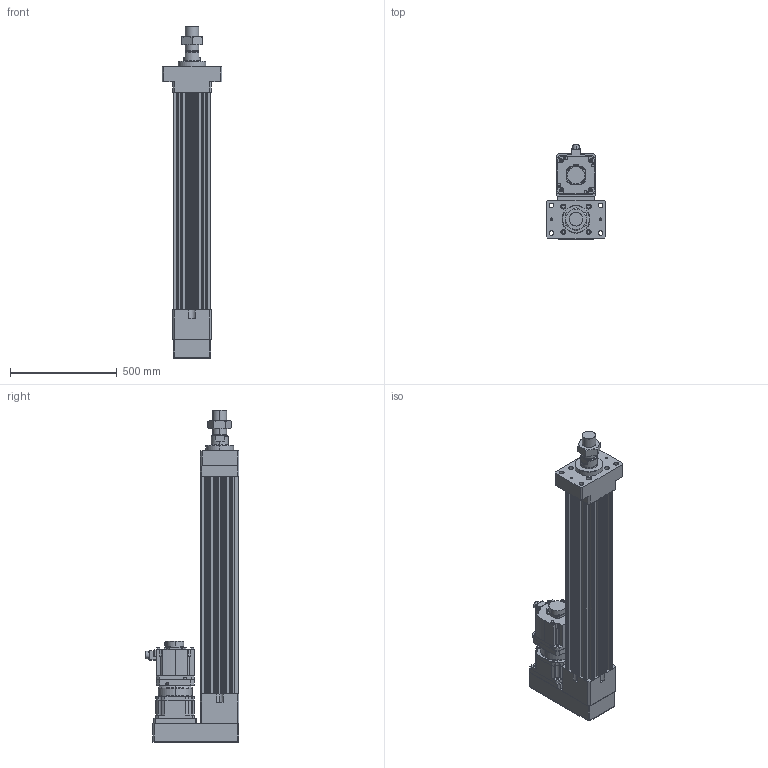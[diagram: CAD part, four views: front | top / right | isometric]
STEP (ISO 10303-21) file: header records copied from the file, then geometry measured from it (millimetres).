
FILE_DESCRIPTION (( 'STEP AP203' ), '1' );
FILE_NAME ('HES180HS-P700-W050G00-M-FMA.STEP', '2023-02-01T08:26:14', ( 'tms' ), ( '' ), 'SwSTEP 2.0', 'SolidWorks 2013', '' );
FILE_SCHEMA (( 'CONFIG_CONTROL_DESIGN' ));
Length unit declared in the file: millimetre
Products named in the file (9): AB1801; M64X2.0P; P1301600001; AB180-003[HG-SR702B]; HG-SR502; HES180-P700-G180-FMA; HES180 ROD M ST700; P0403600401; HES180HS-P700-W050G00-M-FMA
Assembly tree (8 placements, depth 3):
  HES180HS-P700-W050G00-M-FMA
    HES180-P700-G180-FMA
    HES180 ROD M ST700
    M64X2.0P
    AB180-003[HG-SR702B]
      AB1801
      P1301600001
      P0403600401
    HG-SR502
Bounding box: 280 x 438.85 x 1552 mm (x, y, z)
Volume: 33371891.5 mm3; surface area: 2951651.5 mm2
Topology: 4 solids, 19 shells, 1431 faces, 3715 edges, 2410 vertices
Faces by surface type: cylinder 663, plane 555, cone 146, bspline 63, torus 4
Entity records: 52578 total; most frequent: CARTESIAN_POINT 15982, DIRECTION 7693, ORIENTED_EDGE 7330, EDGE_CURVE 3689, AXIS2_PLACEMENT_3D 2901, VERTEX_POINT 2410, LINE 1891, VECTOR 1891
